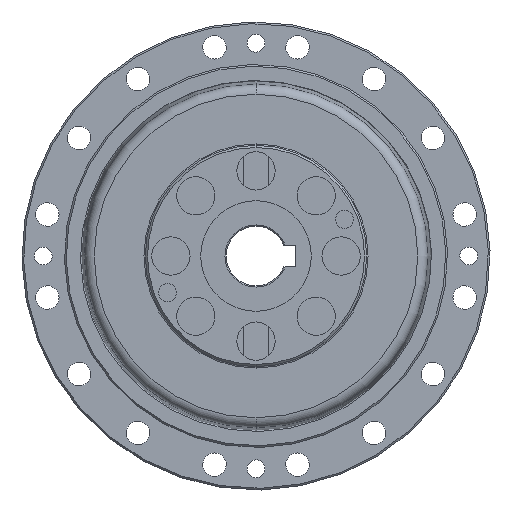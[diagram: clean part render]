
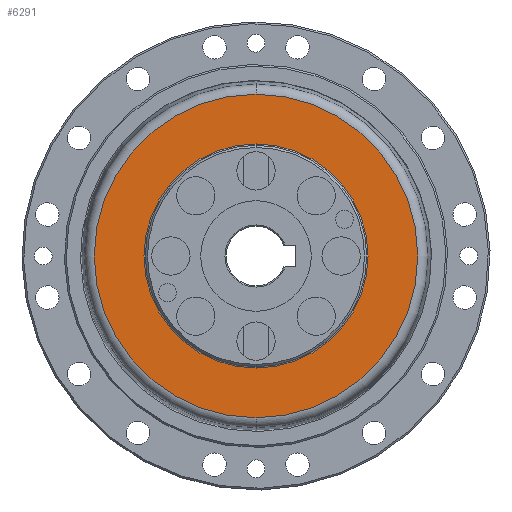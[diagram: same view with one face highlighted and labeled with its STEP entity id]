
A CAD part, left-side view. The second image highlights one B-rep face of the part: STEP entity #6291.
In plain terms, the highlighted planar face has unit normal (-1, 0, 0).
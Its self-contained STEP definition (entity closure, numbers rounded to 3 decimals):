
#530 = DIRECTION ( 'NONE',  ( -1., 0., 0. ) ) ;
#652 = EDGE_CURVE ( 'NONE', #5698, #8176, #1921, .T. ) ;
#768 = EDGE_LOOP ( 'NONE', ( #13284, #9391 ) ) ;
#1196 = EDGE_CURVE ( 'NONE', #3519, #4958, #8940, .T. ) ;
#1519 = ORIENTED_EDGE ( 'NONE', *, *, #3359, .T. ) ;
#1524 = AXIS2_PLACEMENT_3D ( 'NONE', #6778, #530, #7844 ) ;
#1901 = CARTESIAN_POINT ( 'NONE',  ( 2.611, 0., -26.325 ) ) ;
#1921 = CIRCLE ( 'NONE', #12262, 38.007 ) ;
#1998 = PLANE ( 'NONE',  #9589 ) ;
#2470 = EDGE_LOOP ( 'NONE', ( #4903, #1519 ) ) ;
#2748 = DIRECTION ( 'NONE',  ( -1., 0., 0. ) ) ;
#3015 = DIRECTION ( 'NONE',  ( 0., 0., 1. ) ) ;
#3304 = DIRECTION ( 'NONE',  ( -1., 0., 0. ) ) ;
#3359 = EDGE_CURVE ( 'NONE', #8176, #5698, #4448, .T. ) ;
#3519 = VERTEX_POINT ( 'NONE', #1901 ) ;
#4448 = CIRCLE ( 'NONE', #1524, 38.007 ) ;
#4903 = ORIENTED_EDGE ( 'NONE', *, *, #652, .T. ) ;
#4955 = AXIS2_PLACEMENT_3D ( 'NONE', #9034, #2748, #10104 ) ;
#4958 = VERTEX_POINT ( 'NONE', #12070 ) ;
#4987 = FACE_BOUND ( 'NONE', #768, .T. ) ;
#5057 = CARTESIAN_POINT ( 'NONE',  ( 2.611, 0., 0. ) ) ;
#5213 = CARTESIAN_POINT ( 'NONE',  ( 2.611, 0., -38.007 ) ) ;
#5698 = VERTEX_POINT ( 'NONE', #5213 ) ;
#5846 = AXIS2_PLACEMENT_3D ( 'NONE', #6591, #8363, #6233 ) ;
#6233 = DIRECTION ( 'NONE',  ( 0., 0., -1. ) ) ;
#6291 = ADVANCED_FACE ( 'NONE', ( #4987, #10578 ), #1998, .F. ) ;
#6591 = CARTESIAN_POINT ( 'NONE',  ( 2.611, 0., 0. ) ) ;
#6778 = CARTESIAN_POINT ( 'NONE',  ( 2.611, 0., 0. ) ) ;
#7844 = DIRECTION ( 'NONE',  ( 0., 0., -1. ) ) ;
#7933 = CIRCLE ( 'NONE', #4955, 26.325 ) ;
#8176 = VERTEX_POINT ( 'NONE', #11620 ) ;
#8363 = DIRECTION ( 'NONE',  ( -1., 0., 0. ) ) ;
#8940 = CIRCLE ( 'NONE', #5846, 26.325 ) ;
#9034 = CARTESIAN_POINT ( 'NONE',  ( 2.611, 0., 0. ) ) ;
#9326 = DIRECTION ( 'NONE',  ( 1., 0., 0. ) ) ;
#9391 = ORIENTED_EDGE ( 'NONE', *, *, #12812, .F. ) ;
#9589 = AXIS2_PLACEMENT_3D ( 'NONE', #11387, #9326, #3015 ) ;
#10104 = DIRECTION ( 'NONE',  ( 0., 0., -1. ) ) ;
#10578 = FACE_OUTER_BOUND ( 'NONE', #2470, .T. ) ;
#11387 = CARTESIAN_POINT ( 'NONE',  ( 2.611, -38.007, 0. ) ) ;
#11620 = CARTESIAN_POINT ( 'NONE',  ( 2.611, 0., 38.007 ) ) ;
#12070 = CARTESIAN_POINT ( 'NONE',  ( 2.611, 0., 26.325 ) ) ;
#12262 = AXIS2_PLACEMENT_3D ( 'NONE', #5057, #3304, #13109 ) ;
#12812 = EDGE_CURVE ( 'NONE', #4958, #3519, #7933, .T. ) ;
#13109 = DIRECTION ( 'NONE',  ( 0., 0., -1. ) ) ;
#13284 = ORIENTED_EDGE ( 'NONE', *, *, #1196, .F. ) ;
